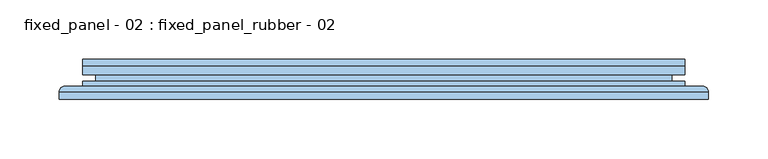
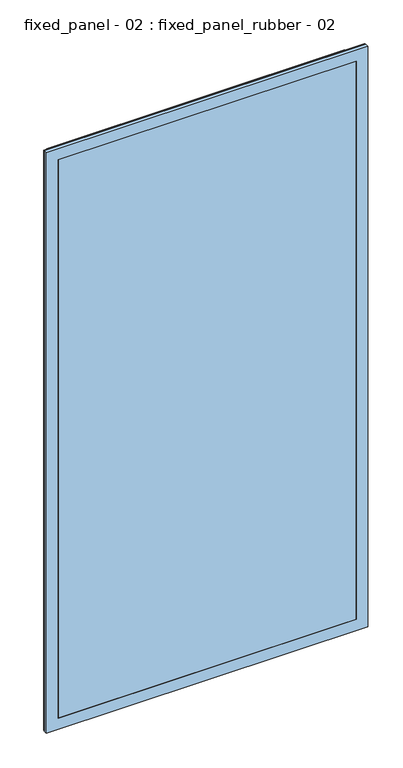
"""IFC4 building model written with IfcOpenShell, lengths in millimetres: window geometry, fixed_panel - 02 : fixed_panel_rubber - 02."""

from ifc_helpers import new_model, si_unit, frame, origin, place, context, project, spatial, polyline, ellipse_curve, outline, extrude, faceted_brep, source, transform, mapped, element, save
from ifc_brep_helpers import plane_surface, cylinder_surface, advanced_brep


def fixed_panel_02_fixed_panel_rubber_02_d76b892d(model_context):
    return source(origin(), model_context, "Body", "SolidModel", [
        advanced_brep(
        [(255.001939, -27.9878211, 990.0157965), (260.001939, -22.9878211, 995.0157965), (260.001939, -22.9878211, -25.0), (255.001939, -27.9878211, -20.0), (269.999617, -22.9878211, -34.9976779), (-269.999617, -22.9878211, -34.9976779), (-269.999617, -22.9878211, 1005.0134744), (269.999617, -22.9878211, 1005.0134744), (-260.001939, -22.9878211, 995.0157965), (-260.001939, -22.9878211, -25.0), (-255.001939, -27.9878211, -20.0), (255.001939, -34.0, 990.0157965), (255.001939, -34.0, -20.0), (-255.001939, -34.0, -20.0), (274.9952925, -34.0, 1010.00915), (-274.9952925, -34.0, 1010.00915), (-274.9952925, -34.0, -39.9933535), (274.9952925, -34.0, -39.9933535), (-255.001939, -34.0, 990.0157965), (274.9952925, -27.9834967, 1010.00915), (274.9952925, -27.9834967, -39.9933535), (-274.9952925, -27.9834967, -39.9933535), (-255.001939, -27.9878211, 990.0157965), (-274.9952925, -27.9834967, 1010.00915)],
        [
            (0, 1, ellipse_curve(frame((260.001939, -27.9878211, 995.0157965), z_axis=(0.7071067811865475, 0.0, -0.7071067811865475), x_axis=(0.7071067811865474, 0.0, 0.7071067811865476)), 7.0710678, 5.0)),
            (1, 2),
            (2, 3, ellipse_curve(frame((260.001939, -27.9878211, -25.0), z_axis=(0.7071067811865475, 0.0, 0.7071067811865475), x_axis=(-0.7071067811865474, 0.0, 0.7071067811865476)), 7.0710678, 5.0)),
            (3, 0),
            (4, 5),
            (5, 6),
            (6, 7),
            (7, 4),
            (1, 8),
            (8, 9),
            (9, 2),
            (9, 10, ellipse_curve(frame((-260.001939, -27.9878211, -25.0), z_axis=(0.7071067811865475, 0.0, -0.7071067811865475), x_axis=(0.7071067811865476, 0.0, 0.7071067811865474)), 7.0710678, 5.0)),
            (10, 3),
            (11, 0),
            (3, 12),
            (12, 11),
            (10, 13),
            (13, 12),
            (14, 15),
            (15, 16),
            (16, 17),
            (17, 14),
            (13, 18),
            (18, 11),
            (19, 14),
            (17, 20),
            (20, 19),
            (16, 21),
            (21, 20),
            (7, 19, ellipse_curve(frame((269.999617, -27.9834967, 1005.0134744), z_axis=(0.7071067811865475, 0.0, -0.7071067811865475), x_axis=(0.7071067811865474, 0.0, 0.7071067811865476)), 7.0649521, 4.9956756)),
            (20, 4, ellipse_curve(frame((269.999617, -27.9834967, -34.9976779), z_axis=(0.7071067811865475, 0.0, 0.7071067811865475), x_axis=(-0.7071067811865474, 0.0, 0.7071067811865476)), 7.0649521, 4.9956756)),
            (21, 5, ellipse_curve(frame((-269.999617, -27.9834967, -34.9976779), z_axis=(0.7071067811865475, 0.0, -0.7071067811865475), x_axis=(0.7071067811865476, 0.0, 0.7071067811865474)), 7.0649521, 4.9956756)),
            (8, 22, ellipse_curve(frame((-260.001939, -27.9878211, 995.0157965), z_axis=(-0.7071067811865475, 0.0, -0.7071067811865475), x_axis=(0.7071067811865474, 0.0, -0.7071067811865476)), 7.0710678, 5.0)),
            (22, 10),
            (22, 18),
            (15, 23),
            (23, 21),
            (23, 6, ellipse_curve(frame((-269.999617, -27.9834967, 1005.0134744), z_axis=(-0.7071067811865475, 0.0, -0.7071067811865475), x_axis=(0.7071067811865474, 0.0, -0.7071067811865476)), 7.0649521, 4.9956756)),
            (0, 22),
            (19, 23),
        ],
        [
            cylinder_surface(frame((260.001939, -27.9878211, 990.0157965), z_axis=(0.0, 0.0, 1.0), x_axis=(1.0, 0.0, 0.0)), 5.0),
            plane_surface(frame((-269.999617, -22.9878211, 1005.0134744), z_axis=(0.0, 1.0, 0.0), x_axis=(1.0, 0.0, 0.0))),
            cylinder_surface(frame((255.001939, -27.9878211, -25.0), z_axis=(1.0, 0.0, 0.0), x_axis=(0.0, 0.0, -1.0)), 5.0),
            plane_surface(frame((255.001939, -27.9878211, 990.0157965), z_axis=(-1.0, 0.0, 0.0), x_axis=(0.0, 0.0, -1.0))),
            plane_surface(frame((255.001939, -27.9878211, -20.0), z_axis=(0.0, 0.0, 1.0), x_axis=(-1.0, 0.0, 0.0))),
            plane_surface(frame((-255.001939, -34.0, 990.0157965), z_axis=(0.0, -1.0, 0.0), x_axis=(1.0, 0.0, 0.0))),
            plane_surface(frame((274.9952925, -34.0, 1010.00915), z_axis=(1.0, 0.0, 0.0), x_axis=(0.0, 0.0, -1.0))),
            plane_surface(frame((274.9952925, -34.0, -39.9933535), z_axis=(0.0, 0.0, -1.0), x_axis=(-1.0, 0.0, 0.0))),
            cylinder_surface(frame((269.999617, -27.9834967, 990.0157965), z_axis=(0.0, 0.0, 1.0), x_axis=(1.0, 0.0, 0.0)), 4.9956756),
            cylinder_surface(frame((255.001939, -27.9834967, -34.9976779), z_axis=(1.0, 0.0, 0.0), x_axis=(0.0, 0.0, -1.0)), 4.9956756),
            cylinder_surface(frame((-260.001939, -27.9878211, -20.0), z_axis=(0.0, 0.0, -1.0), x_axis=(-1.0, 0.0, 0.0)), 5.0),
            plane_surface(frame((-255.001939, -27.9878211, -20.0), z_axis=(1.0, 0.0, 0.0), x_axis=(0.0, 0.0, 1.0))),
            plane_surface(frame((-274.9952925, -34.0, -39.9933535), z_axis=(-1.0, 0.0, 0.0), x_axis=(0.0, 0.0, 1.0))),
            cylinder_surface(frame((-269.999617, -27.9834967, -20.0), z_axis=(0.0, 0.0, -1.0), x_axis=(-1.0, 0.0, 0.0)), 4.9956756),
            cylinder_surface(frame((-255.001939, -27.9878211, 995.0157965), z_axis=(-1.0, 0.0, 0.0), x_axis=(0.0, 0.0, 1.0)), 5.0),
            plane_surface(frame((-255.001939, -27.9878211, 990.0157965), z_axis=(0.0, 0.0, -1.0), x_axis=(1.0, 0.0, 0.0))),
            plane_surface(frame((-274.9952925, -34.0, 1010.00915), z_axis=(0.0, 0.0, 1.0), x_axis=(1.0, 0.0, 0.0))),
            cylinder_surface(frame((-255.001939, -27.9834967, 1005.0134744), z_axis=(-1.0, 0.0, 0.0), x_axis=(0.0, 0.0, 1.0)), 4.9956756),
        ],
        [
            (0, [[1, 2, 3, 4]]),
            (1, [[5, 6, 7, 8], [9, 10, 11, -2]]),
            (2, [[-3, -11, 12, 13]]),
            (3, [[14, -4, 15, 16]]),
            (4, [[-15, -13, 17, 18]]),
            (5, [[19, 20, 21, 22], [-18, 23, 24, -16]]),
            (6, [[25, -22, 26, 27]]),
            (7, [[-26, -21, 28, 29]]),
            (8, [[30, -27, 31, -8]]),
            (9, [[-31, -29, 32, -5]]),
            (10, [[-12, -10, 33, 34]]),
            (11, [[-17, -34, 35, -23]]),
            (12, [[-28, -20, 36, 37]]),
            (13, [[-32, -37, 38, -6]]),
            (14, [[-33, -9, -1, 39]]),
            (15, [[-35, -39, -14, -24]]),
            (16, [[-36, -19, -25, 40]]),
            (17, [[-38, -40, -30, -7]]),
        ],
    ),
        faceted_brep([(229.001939, -26.0, 964.0157965), (229.001939, -6.0, 964.0157965), (229.001939, -6.0, 6.0), (229.001939, -26.0, 6.0), (255.001939, -6.0, -20.0), (-255.001939, -6.0, -20.0), (-255.001939, -6.0, 990.0157965), (255.001939, -6.0, 990.0157965), (-229.001939, -6.0, 964.0157965), (-229.001939, -6.0, 6.0), (-229.001939, -26.0, 6.0), (255.001939, -26.0, 990.0157965), (-255.001939, -26.0, 990.0157965), (-255.001939, -26.0, -20.0), (255.001939, -26.0, -20.0), (-229.001939, -26.0, 964.0157965), (255.001939, -18.8, 990.0157965), (255.001939, -18.8, -20.0), (-255.001939, -18.8, -20.0), (-255.001939, -18.8, 990.0157965), (244.001939, -18.8, 979.0157965), (-244.001939, -18.8, 979.0157965), (-244.001939, -18.8, -9.0), (244.001939, -18.8, -9.0), (244.001939, -13.2, 979.0157965), (244.001939, -13.2, -9.0), (-244.001939, -13.2, -9.0), (255.001939, -13.2, 990.0157965), (-255.001939, -13.2, 990.0157965), (-255.001939, -13.2, -20.0), (255.001939, -13.2, -20.0), (-244.001939, -13.2, 979.0157965)], [[[0, 1, 2, 3]], [[4, 5, 6, 7], [1, 8, 9, 2]], [[3, 2, 9, 10]], [[11, 12, 13, 14], [3, 10, 15, 0]], [[16, 11, 14, 17]], [[17, 14, 13, 18]], [[17, 18, 19, 16], [20, 21, 22, 23]], [[24, 20, 23, 25]], [[25, 23, 22, 26]], [[27, 28, 29, 30], [25, 26, 31, 24]], [[7, 27, 30, 4]], [[4, 30, 29, 5]], [[10, 9, 8, 15]], [[18, 13, 12, 19]], [[26, 22, 21, 31]], [[5, 29, 28, 6]], [[15, 8, 1, 0]], [[19, 12, 11, 16]], [[31, 21, 20, 24]], [[6, 28, 27, 7]]]),
        extrude(outline(polyline([(255.001939, -34.0), (-255.001939, -34.0), (-255.001939, -26.0), (255.001939, -26.0), (255.001939, -34.0)])), frame((0.0, 0.0, -20.0), z_axis=(0.0, 0.0, 1.0), x_axis=(1.0, 0.0, 0.0)), (0.0, 0.0, 1.0), 1010.0157965),
        extrude(outline(polyline([(255.001939, -6.0), (-255.001939, -6.0), (-255.001939, 0.0), (255.001939, 0.0), (255.001939, -6.0)])), frame((0.0, 0.0, -20.0), z_axis=(0.0, 0.0, 1.0), x_axis=(1.0, 0.0, 0.0)), (0.0, 0.0, 1.0), 1010.0157965),
    ])


if __name__ == "__main__":
    model = new_model("IFC4")
    model_context = context("Model", 3, world=origin())
    ifc_project = project(units=[si_unit("LENGTHUNIT", "METRE", prefix="MILLI")], contexts=[model_context])
    site = spatial("IfcSite", under=ifc_project)
    building = spatial("IfcBuilding", under=site)
    placement = place(None, origin())
    fixed_panel_02_fixed_panel_rubber_02_shape = fixed_panel_02_fixed_panel_rubber_02_d76b892d(model_context)
    element("IfcWindow", 1, ObjectType="fixed_panel - 02 : fixed_panel_rubber - 02", at=placement, inside=building, context=model_context, shape_type="MappedRepresentation", body=[
        mapped(fixed_panel_02_fixed_panel_rubber_02_shape, transform((0.0, 0.0, 0.0), x_axis=(1.0, 0.0, 0.0), y_axis=(0.0, 1.0, 0.0), z_axis=(0.0, 0.0, 1.0))),
    ])
    save(model, "model.ifc")
